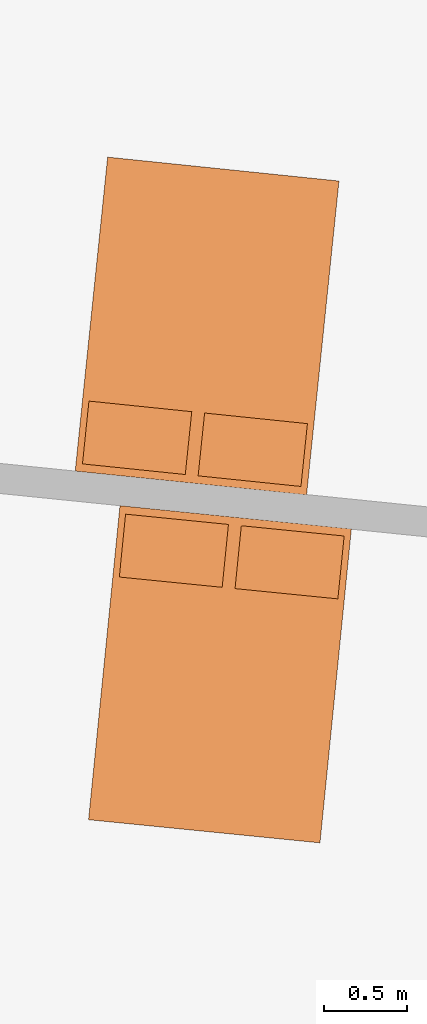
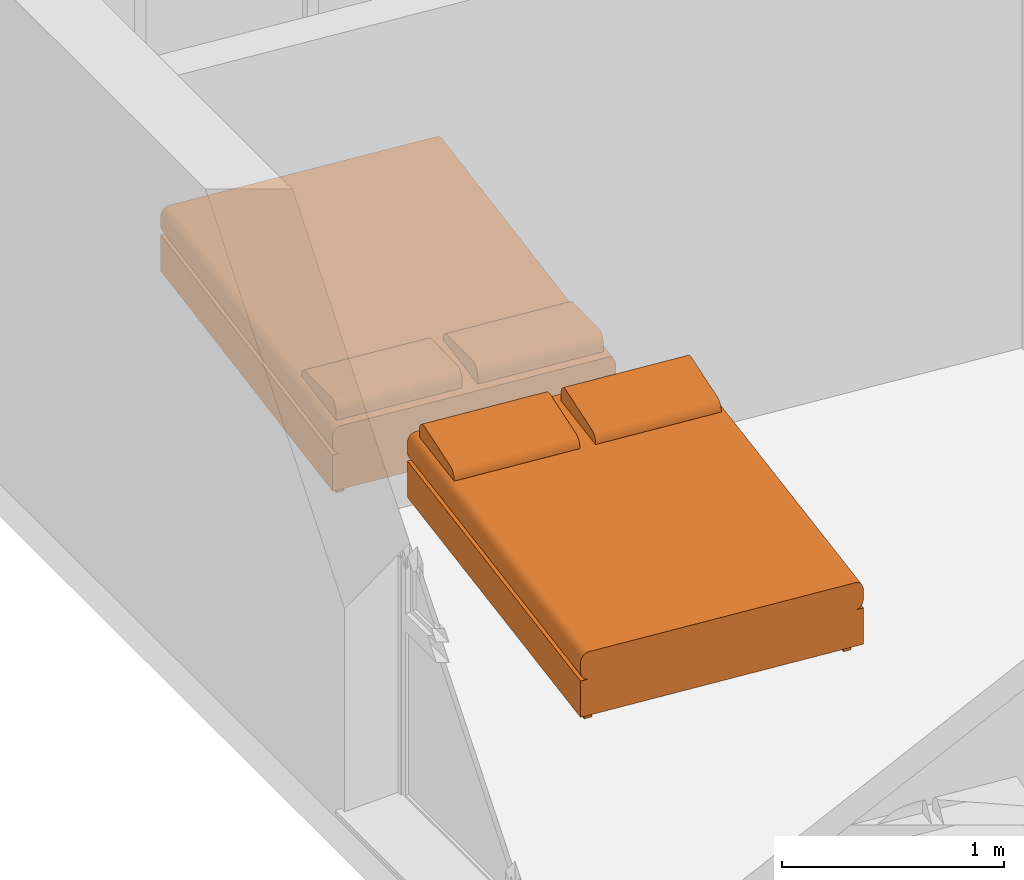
# One storey, part 161 of 171: 2 proxies.
"""IFC2X3 building model written with IfcOpenShell, lengths in millimetres."""

import ifcopenshell
import ifcopenshell.guid

model = None  # the IFC model being written
_history = None  # IfcOwnerHistory: only IFC2X3 demands one
_inside = {}  # id of a spatial element -> (the spatial element, [elements in it])
_under = {}  # id of a project, library or spatial element -> (it, [spatial elements below it])
_declared = {}  # id of a project -> (the project, [libraries it declares])
_typed = {}  # id of a type object -> (the type object, [elements of that type])
_made_of = {}  # id of a material, layer set ... -> (it, [elements and type objects made of it])


def new_model(schema):
    """Start an empty IFC model of exactly this schema.

    Asked for "IFC4X3", IfcOpenShell would pick the latest addendum, in which some entities
    have other attributes; the version numbers below select the first issue.
    IFC2X3 requires an IfcOwnerHistory on every rooted entity: one is made here for all.
    """
    global model, _history
    if schema == "IFC4X3":
        model = ifcopenshell.file(schema_version=(4, 3, 0, 0))
    else:
        model = ifcopenshell.file(schema=schema)
    _inside.clear()
    _under.clear()
    _declared.clear()
    _typed.clear()
    _made_of.clear()
    _history = None
    if model.schema == "IFC2X3":
        org = make("IfcOrganization", Name="unknown")
        user = make(
            "IfcPersonAndOrganization",
            ThePerson=make("IfcPerson", FamilyName="unknown"),
            TheOrganization=org,
        )
        app = make(
            "IfcApplication",
            ApplicationDeveloper=org,
            Version="unknown",
            ApplicationFullName="unknown",
            ApplicationIdentifier="unknown",
        )
        _history = make(
            "IfcOwnerHistory",
            OwningUser=user,
            OwningApplication=app,
            ChangeAction="ADDED",
            CreationDate=0,
        )
    return model


def make(cls, **values):
    """One entity of the class cls with the attributes given. An attribute that is None is left unset."""
    return model.create_entity(
        cls, **{name: value for name, value in values.items() if value is not None}
    )


def entity(cls, *values):
    """Any entity or typed value of the class cls, its attributes in the order of the schema. None: left unset."""
    e = model.create_entity(cls)
    for i, value in enumerate(values):
        if value is not None:
            e[i] = value
    return e


def rooted(cls, **values):
    """An entity with a GlobalId (a new one), such as an element, a storey or a relation."""
    return make(cls, GlobalId=ifcopenshell.guid.new(), OwnerHistory=_history, **values)


def si_unit(unit_type, name, prefix=None):
    """IfcSIUnit, for example si_unit("LENGTHUNIT", "METRE", prefix="MILLI")."""
    return make("IfcSIUnit", UnitType=unit_type, Prefix=prefix, Name=name)


def converted_unit(unit_type, name, factor, base, dimensions=None, offset=None):
    """IfcConversionBasedUnit, such as the inch: factor (a typed value) times the base unit."""
    return make(
        "IfcConversionBasedUnit"
        if offset is None
        else "IfcConversionBasedUnitWithOffset",
        ConversionOffset=offset,
        Dimensions=None
        if dimensions is None
        else entity("IfcDimensionalExponents", *dimensions),
        UnitType=unit_type,
        Name=name,
        ConversionFactor=make(
            "IfcMeasureWithUnit", ValueComponent=factor, UnitComponent=base
        ),
    )


def derived_unit(unit_type, elements):
    """IfcDerivedUnit: a product of units, each with its exponent."""
    return make(
        "IfcDerivedUnit",
        Elements=[
            make("IfcDerivedUnitElement", Unit=unit, Exponent=power)
            for unit, power in elements
        ],
        UnitType=unit_type,
    )


def money_unit(currency):
    """IfcMonetaryUnit."""
    return make("IfcMonetaryUnit", Currency=currency)


def assignment(units):
    """IfcUnitAssignment: the units of a project."""
    return None if units is None else make("IfcUnitAssignment", Units=units)


def point(xyz):
    """IfcCartesianPoint."""
    return None if xyz is None else make("IfcCartesianPoint", Coordinates=xyz)


def direction(xyz):
    """IfcDirection."""
    return None if xyz is None else make("IfcDirection", DirectionRatios=xyz)


def frame(location, z_axis=None, x_axis=None):
    """IfcAxis2Placement3D, a coordinate frame: its origin and axes. An axis left out is left unset."""
    return make(
        "IfcAxis2Placement3D",
        Location=point(location),
        Axis=direction(z_axis),
        RefDirection=direction(x_axis),
    )


def origin_with_axes():
    """The frame at (0, 0, 0) with the z axis (0, 0, 1) and the x axis (1, 0, 0) written out."""
    return frame((0.0, 0.0, 0.0), z_axis=(0.0, 0.0, 1.0), x_axis=(1.0, 0.0, 0.0))


def place(relative_to, where):
    """IfcLocalPlacement: puts the frame where relative to a parent placement (None: the world)."""
    return make(
        "IfcLocalPlacement", PlacementRelTo=relative_to, RelativePlacement=where
    )


def context(
    kind, dimensions, precision=None, world=None, true_north=None, identifier=None
):
    """IfcGeometricRepresentationContext, for example the 3D "Model" context."""
    return make(
        "IfcGeometricRepresentationContext",
        ContextIdentifier=identifier,
        ContextType=kind,
        CoordinateSpaceDimension=dimensions,
        Precision=precision,
        WorldCoordinateSystem=world,
        TrueNorth=true_north,
    )


def subcontext(parent, identifier, kind, view, scale=None):
    """IfcGeometricRepresentationSubContext, for example "Body" below "Model"."""
    return make(
        "IfcGeometricRepresentationSubContext",
        ContextIdentifier=identifier,
        ContextType=kind,
        ParentContext=parent,
        TargetScale=scale,
        TargetView=view,
    )


def project(units=None, contexts=None):
    """IfcProject with its units and contexts."""
    return rooted(
        "IfcProject",
        Name="project",
        RepresentationContexts=contexts,
        UnitsInContext=assignment(units),
    )


def spatial(cls, under=None, at=None, **own):
    """A site, building, storey or space (cls), placed at a placement, below another one or the project."""
    s = rooted(cls, ObjectPlacement=at, **own)
    if under is not None:
        _under.setdefault(under.id(), (under, []))[1].append(s)
    return s


def faces_of(points, faces, orient=None, outer=None):
    """IfcFace entities. A face is a list of loops; a loop is a list of indices into points, from 0.

    orient and outer hold one flag for each loop. By default every Orientation is true, the
    first loop of a face is its IfcFaceOuterBound and the others are IfcFaceBound.
    """
    made = []
    for i, loops in enumerate(faces):
        bounds = []
        for j, loop in enumerate(loops):
            is_outer = j == 0 if outer is None else outer[i][j]
            bounds.append(
                make(
                    "IfcFaceOuterBound" if is_outer else "IfcFaceBound",
                    Bound=make("IfcPolyLoop", Polygon=[points[k] for k in loop]),
                    Orientation=True if orient is None else orient[i][j],
                )
            )
        made.append(make("IfcFace", Bounds=bounds))
    return made


def open_shell(faces, orient=None, outer=None):
    """The faces of one IfcOpenShell. surface_model builds it on its shared points."""
    return ("IfcOpenShell", faces, orient, outer)


def faceted_brep(points, faces, orient=None, outer=None, voids=None):
    """IfcFacetedBrep: a solid bounded by flat faces; with voids (closed shells), ...WithVoids."""
    shared = [point(p) for p in points]
    hull = make("IfcClosedShell", CfsFaces=faces_of(shared, faces, orient, outer))
    if voids is None:
        return make("IfcFacetedBrep", Outer=hull)
    return make(
        "IfcFacetedBrepWithVoids",
        Outer=hull,
        Voids=[
            make(cls, CfsFaces=faces_of(shared, fs, o, b)) for cls, fs, o, b in voids
        ],
    )


def surface_model(cls, points, shells):
    """IfcFaceBasedSurfaceModel or IfcShellBasedSurfaceModel (cls): surfaces that need not close."""
    shared = [point(p) for p in points]
    made = [make(c, CfsFaces=faces_of(shared, fs, o, b)) for c, fs, o, b in shells]
    if cls == "IfcFaceBasedSurfaceModel":
        return make(cls, FbsmFaces=made)
    return make(cls, SbsmBoundary=made)


def shape(context_of_items, identifier, shape_type, items):
    """IfcShapeRepresentation: the items that make up one representation, for example the "Body"."""
    return make(
        "IfcShapeRepresentation",
        ContextOfItems=context_of_items,
        RepresentationIdentifier=identifier,
        RepresentationType=shape_type,
        Items=items,
    )


def source(mapping_origin, context_of_items, identifier, shape_type, items):
    """IfcRepresentationMap: a shape defined once, which mapped items show again and again."""
    return make(
        "IfcRepresentationMap",
        MappingOrigin=mapping_origin,
        MappedRepresentation=shape(context_of_items, identifier, shape_type, items),
    )


def transform(
    local_origin,
    x_axis=None,
    y_axis=None,
    z_axis=None,
    scale=None,
    scale2=None,
    scale3=None,
    uniform=True,
):
    """IfcCartesianTransformationOperator3D, or its non-uniform kind. x_axis, y_axis, z_axis: its Axis1, 2, 3."""
    if uniform:
        return make(
            "IfcCartesianTransformationOperator3D",
            Axis1=direction(x_axis),
            Axis2=direction(y_axis),
            LocalOrigin=point(local_origin),
            Scale=scale,
            Axis3=direction(z_axis),
        )
    return make(
        "IfcCartesianTransformationOperator3DnonUniform",
        Axis1=direction(x_axis),
        Axis2=direction(y_axis),
        LocalOrigin=point(local_origin),
        Scale=scale,
        Axis3=direction(z_axis),
        Scale2=scale2,
        Scale3=scale3,
    )


def mapped(mapping_source, mapping_target):
    """IfcMappedItem: shows the shape of a source again, moved by a transform."""
    return make(
        "IfcMappedItem", MappingSource=mapping_source, MappingTarget=mapping_target
    )


def made_of(thing, what):
    """Note that an element or type object is made of a material, layer set ...; save() writes the relation."""
    if what is not None:
        _made_of.setdefault(what.id(), (what, []))[1].append(thing)
    return thing


def type_object(cls, material=None, **own):
    """A type object (cls), such as IfcWallType, which elements share."""
    return made_of(rooted(cls, **own), material)


def element(
    cls,
    number,
    at=None,
    inside=None,
    cuts=None,
    type_object=None,
    material=None,
    context=None,
    identifier="Body",
    shape_type=None,
    held_by="IfcProductDefinitionShape",
    body=None,
    shapes=None,
    **own,
):
    """One element of the class cls, such as IfcWall. Its Tag is "e" and its number.

    at: its placement. inside: the storey or other place that contains it. cuts: it is an
    opening in that element (IfcRelVoidsElement). A single representation is given by context,
    identifier, shape_type and body (its items); several are given by shapes. held_by: the class
    of the entity that holds the representations. save() writes the other relations.
    """
    e = rooted(cls, Tag="e%d" % number, ObjectPlacement=at, **own)
    if body is not None:
        shapes = [shape(context, identifier, shape_type, body)]
    if shapes is not None:
        e.Representation = make(held_by, Representations=shapes)
    if inside is not None:
        _inside.setdefault(inside.id(), (inside, []))[1].append(e)
    if cuts is not None:
        rooted(
            "IfcRelVoidsElement", RelatingBuildingElement=cuts, RelatedOpeningElement=e
        )
    if type_object is not None:
        _typed.setdefault(type_object.id(), (type_object, []))[1].append(e)
    return made_of(e, material)


def aggregate(whole, parts):
    """IfcRelAggregates: a whole, such as a stair, and the parts it consists of."""
    return rooted("IfcRelAggregates", RelatingObject=whole, RelatedObjects=parts)


def save(model, path):
    """Write the relations noted so far, then the file.

    IfcRelAggregates (storeys below a building ...), IfcRelContainedInSpatialStructure (elements
    in a storey), IfcRelDefinesByType, IfcRelAssociatesMaterial and IfcRelDeclares: one each for
    every whole, place, type object, material and project.
    """
    for whole, parts in _under.values():
        aggregate(whole, parts)
    for where, things in _inside.values():
        rooted(
            "IfcRelContainedInSpatialStructure",
            RelatedElements=things,
            RelatingStructure=where,
        )
    for kind, things in _typed.values():
        rooted("IfcRelDefinesByType", RelatedObjects=things, RelatingType=kind)
    for what, things in _made_of.values():
        rooted("IfcRelAssociatesMaterial", RelatedObjects=things, RelatingMaterial=what)
    for by, libraries in _declared.values():
        rooted("IfcRelDeclares", RelatingContext=by, RelatedDefinitions=libraries)
    model.write(path)


model = new_model("IFC2X3")

# Units and contexts
model_context = context("Model", 3, precision=0.01, world=origin_with_axes(), true_north=direction((0.0, 1.0)))
body_context = subcontext(model_context, "Body", "Model", "MODEL_VIEW")
ifc_project = project(units=[si_unit("LENGTHUNIT", "METRE", prefix="MILLI"), si_unit("AREAUNIT", "SQUARE_METRE"), si_unit("VOLUMEUNIT", "CUBIC_METRE"), converted_unit("PLANEANGLEUNIT", "DEGREE", entity("IfcPlaneAngleMeasure", 0.0174532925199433), si_unit("PLANEANGLEUNIT", "RADIAN"), dimensions=[0, 0, 0, 0, 0, 0, 0]), money_unit("USD"), converted_unit("TIMEUNIT", "Year", entity("IfcTimeMeasure", 31557600.0), si_unit("TIMEUNIT", "SECOND"), dimensions=[0, 0, 1, 0, 0, 0, 0]), si_unit("MASSUNIT", "GRAM", prefix="KILO"), si_unit("THERMODYNAMICTEMPERATUREUNIT", "DEGREE_CELSIUS"), si_unit("LUMINOUSINTENSITYUNIT", "LUMEN"), si_unit("ENERGYUNIT", "JOULE", prefix="MEGA"), derived_unit("THERMALCONDUCTANCEUNIT", [(si_unit("POWERUNIT", "WATT"), 1), (si_unit("LENGTHUNIT", "METRE"), -1), (si_unit("THERMODYNAMICTEMPERATUREUNIT", "KELVIN"), -1)]), derived_unit("SPECIFICHEATCAPACITYUNIT", [(si_unit("ENERGYUNIT", "JOULE"), 1), (si_unit("MASSUNIT", "GRAM", prefix="KILO"), -1), (si_unit("THERMODYNAMICTEMPERATUREUNIT", "KELVIN"), -1)]), derived_unit("MASSDENSITYUNIT", [(si_unit("MASSUNIT", "GRAM", prefix="KILO"), 1), (si_unit("VOLUMEUNIT", "CUBIC_METRE"), -1)])], contexts=[model_context])

# Site, building, storey
site_placement = place(None, origin_with_axes())
site = spatial("IfcSite", under=ifc_project, at=site_placement, Name="Site", CompositionType="ELEMENT")
building_placement = place(site_placement, origin_with_axes())
building = spatial("IfcBuilding", under=site, at=building_placement, Name="Bâtiment", CompositionType="ELEMENT")
storey_placement = place(building_placement, frame((0.0, 0.0, 3000.0), z_axis=(0.0, 0.0, 1.0), x_axis=(1.0, 0.0, 0.0)))
storey = spatial("IfcBuildingStorey", under=building, at=storey_placement, Name="rdc", CompositionType="ELEMENT", Elevation=3000.0)

# Proxies
building_element_proxy_type = type_object("IfcBuildingElementProxyType", PredefinedType="NOTDEFINED")
shared_shape_1 = source(origin_with_axes(), body_context, "Body", "SurfaceModel", [
    faceted_brep([(-622.2222222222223, -95.0, 0.0), (-661.1111111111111, -95.0, 0.0), (-661.1111111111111, -47.5, 0.0), (-622.2222222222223, -47.5, 0.0), (-622.2222222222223, -95.0, 50.0), (-661.1111111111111, -95.0, 50.0), (-661.1111111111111, -47.5, 50.0), (-622.2222222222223, -47.5, 50.0)], [[[0, 1, 2, 3]], [[1, 0, 4, 5]], [[2, 1, 5, 6]], [[3, 2, 6, 7]], [[0, 3, 7, 4]], [[5, 4, 7, 6]]]),
    faceted_brep([(-622.2222222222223, -1852.5, 0.0), (-661.1111111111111, -1852.5, 0.0), (-661.1111111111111, -1805.0, 0.0), (-622.2222222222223, -1805.0, 0.0), (-622.2222222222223, -1852.5, 50.0), (-661.1111111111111, -1852.5, 50.0), (-661.1111111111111, -1805.0, 50.0), (-622.2222222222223, -1805.0, 50.0)], [[[0, 1, 2, 3]], [[1, 0, 4, 5]], [[2, 1, 5, 6]], [[3, 2, 6, 7]], [[0, 3, 7, 4]], [[5, 4, 7, 6]]]),
    faceted_brep([(661.111111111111, -1852.5, 0.0), (622.2222222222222, -1852.5, 0.0), (622.2222222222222, -1805.0, 0.0), (661.111111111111, -1805.0, 0.0), (661.111111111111, -1852.5, 50.0), (622.2222222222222, -1852.5, 50.0), (622.2222222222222, -1805.0, 50.0), (661.111111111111, -1805.0, 50.0)], [[[0, 1, 2, 3]], [[1, 0, 4, 5]], [[2, 1, 5, 6]], [[3, 2, 6, 7]], [[0, 3, 7, 4]], [[5, 4, 7, 6]]]),
    faceted_brep([(661.111111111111, -94.99999999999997, 0.0), (622.2222222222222, -94.99999999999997, 0.0), (622.2222222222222, -47.49999999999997, 0.0), (661.111111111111, -47.49999999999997, 0.0), (661.111111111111, -94.99999999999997, 50.0), (622.2222222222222, -94.99999999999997, 50.0), (622.2222222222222, -47.49999999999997, 50.0), (661.111111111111, -47.49999999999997, 50.0)], [[[0, 1, 2, 3]], [[1, 0, 4, 5]], [[2, 1, 5, 6]], [[3, 2, 6, 7]], [[0, 3, 7, 4]], [[5, 4, 7, 6]]]),
    faceted_brep([(-700.0, 0.0, 50.0), (700.0, 0.0, 50.0), (700.0, -1900.0, 50.00000000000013), (-700.0, -1900.0, 50.00000000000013), (-700.0, 0.0, 250.0), (700.0, 0.0, 250.0), (700.0, -1900.0, 250.0000000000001), (-700.0, -1900.0, 250.0000000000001)], [[[0, 1, 2, 3]], [[0, 4, 5, 1]], [[1, 5, 6, 2]], [[3, 2, 6, 7]], [[4, 0, 3, 7]], [[5, 4, 7, 6]]]),
    surface_model("IfcShellBasedSurfaceModel", [(661.1111111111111, 0.0, 250.0), (667.8640957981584, 0.0, 250.7596123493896), (667.8640957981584, -1900.0, 250.7596123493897), (661.1111111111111, -1900.0, 250.0000000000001), (-661.1111111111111, 0.0, 250.0), (-667.8640957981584, 0.0, 250.7596123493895), (-674.4118944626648, 0.0, 253.0153689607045), (-680.5555555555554, 0.0, 256.698729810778), (-686.1084070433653, 0.0, 261.6977778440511), (-690.9017283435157, 0.0, 267.860619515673), (-694.7898768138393, 0.0, 275.0), (-697.654713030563, 0.0, 282.8989928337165), (-699.4091903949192, 0.0, 291.3175911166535), (-700.0, 0.0, 300.0000000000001), (-700.0000000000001, 0.0, 350.0), (-699.4091903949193, 0.0, 358.6824088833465), (-697.654713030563, 0.0, 367.1010071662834), (-694.7898768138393, 0.0, 375.0), (-690.9017283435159, 0.0, 382.139380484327), (-686.1084070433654, 0.0, 388.3022221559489), (-680.5555555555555, 0.0, 393.301270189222), (-674.4118944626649, 0.0, 396.9846310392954), (-667.8640957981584, 0.0, 399.2403876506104), (-661.1111111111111, 0.0, 400.0), (661.111111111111, 0.0, 400.0000000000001), (667.8640957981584, 0.0, 399.2403876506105), (674.4118944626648, 0.0, 396.9846310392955), (680.5555555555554, 0.0, 393.301270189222), (686.1084070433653, 0.0, 388.3022221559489), (690.9017283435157, 0.0, 382.139380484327), (694.7898768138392, 0.0, 375.0000000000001), (697.654713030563, 0.0, 367.1010071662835), (699.4091903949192, 0.0, 358.6824088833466), (700.0, 0.0, 350.0000000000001), (700.0, 0.0, 300.0000000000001), (699.4091903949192, 0.0, 291.3175911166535), (697.654713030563, 0.0, 282.8989928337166), (694.7898768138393, 0.0, 275.0), (690.9017283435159, 0.0, 267.8606195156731), (686.1084070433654, 0.0, 261.6977778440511), (680.5555555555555, 0.0, 256.698729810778), (674.4118944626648, 0.0, 253.0153689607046), (674.4118944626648, -1900.0, 253.0153689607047), (-661.1111111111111, -1900.0, 250.0000000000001), (680.5555555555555, -1900.0, 256.6987298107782), (686.1084070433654, -1900.0, 261.6977778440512), (690.9017283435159, -1900.0, 267.8606195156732), (694.7898768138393, -1900.0, 275.0000000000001), (697.654713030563, -1900.0, 282.8989928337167), (699.4091903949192, -1900.0, 291.3175911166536), (700.0, -1900.0, 300.0000000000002), (700.0, -1900.0, 350.0000000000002), (699.4091903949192, -1900.0, 358.6824088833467), (697.654713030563, -1900.0, 367.1010071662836), (694.7898768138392, -1900.0, 375.0000000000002), (690.9017283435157, -1900.0, 382.1393804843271), (686.1084070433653, -1900.0, 388.302222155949), (680.5555555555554, -1900.0, 393.3012701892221), (674.4118944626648, -1900.0, 396.9846310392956), (667.8640957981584, -1900.0, 399.2403876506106), (661.111111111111, -1900.0, 400.0000000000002), (-661.1111111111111, -1900.0, 400.0000000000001), (-667.8640957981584, -1900.0, 399.2403876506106), (-674.4118944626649, -1900.0, 396.9846310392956), (-680.5555555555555, -1900.0, 393.3012701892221), (-686.1084070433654, -1900.0, 388.302222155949), (-690.9017283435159, -1900.0, 382.1393804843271), (-694.7898768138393, -1900.0, 375.0000000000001), (-697.654713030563, -1900.0, 367.1010071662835), (-699.4091903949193, -1900.0, 358.6824088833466), (-700.0000000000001, -1900.0, 350.0000000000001), (-700.0, -1900.0, 300.0000000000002), (-699.4091903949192, -1900.0, 291.3175911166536), (-697.654713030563, -1900.0, 282.8989928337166), (-694.7898768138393, -1900.0, 275.0000000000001), (-690.9017283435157, -1900.0, 267.8606195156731), (-686.1084070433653, -1900.0, 261.6977778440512), (-680.5555555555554, -1900.0, 256.6987298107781), (-674.4118944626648, -1900.0, 253.0153689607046), (-667.8640957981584, -1900.0, 250.7596123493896)], [open_shell([[[0, 1, 2, 3]], [[4, 5, 6, 7, 8, 9, 10, 11, 12, 13, 14, 15, 16, 17, 18, 19, 20, 21, 22, 23, 24, 25, 26, 27, 28, 29, 30, 31, 32, 33, 34, 35, 36, 37, 38, 39, 40, 41, 1, 0]], [[1, 41, 42, 2]], [[43, 3, 2, 42, 44, 45, 46, 47, 48, 49, 50, 51, 52, 53, 54, 55, 56, 57, 58, 59, 60, 61, 62, 63, 64, 65, 66, 67, 68, 69, 70, 71, 72, 73, 74, 75, 76, 77, 78, 79]], [[5, 4, 43, 79]], [[6, 5, 79, 78]], [[7, 6, 78, 77]], [[8, 7, 77, 76]], [[9, 8, 76, 75]], [[10, 9, 75, 74]], [[11, 10, 74, 73]], [[12, 11, 73, 72]], [[13, 12, 72, 71]], [[14, 13, 71, 70]], [[15, 14, 70, 69]], [[16, 15, 69, 68]], [[17, 16, 68, 67]], [[18, 17, 67, 66]], [[19, 18, 66, 65]], [[20, 19, 65, 64]], [[21, 20, 64, 63]], [[22, 21, 63, 62]], [[23, 22, 62, 61]], [[24, 23, 61, 60]], [[25, 24, 60, 59]], [[26, 25, 59, 58]], [[27, 26, 58, 57]], [[28, 27, 57, 56]], [[29, 28, 56, 55]], [[30, 29, 55, 54]], [[31, 30, 54, 53]], [[32, 31, 53, 52]], [[33, 32, 52, 51]], [[34, 33, 51, 50]], [[35, 34, 50, 49]], [[36, 35, 49, 48]], [[37, 36, 48, 47]], [[38, 37, 47, 46]], [[39, 38, 46, 45]], [[40, 39, 45, 44]], [[41, 40, 44, 42]]])]),
    faceted_brep([(38.88888888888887, -47.49999999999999, 400.0), (38.88888888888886, -47.49999999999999, 443.4), (661.1111111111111, -47.50000000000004, 443.4000000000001), (661.1111111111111, -47.50000000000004, 400.0000000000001), (38.88888888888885, -427.5, 400.0), (38.88888888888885, -427.6960812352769, 408.695442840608), (38.88888888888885, -426.4675711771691, 417.2966661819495), (38.88888888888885, -423.8511300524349, 425.5469991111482), (38.88888888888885, -419.9248356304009, 433.2002417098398), (38.88888888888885, -414.8058532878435, 440.0280119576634), (38.88888888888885, -408.6469396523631, 445.826560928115), (38.88888888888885, -401.6318841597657, 450.4228529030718), (38.88888888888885, -393.9700245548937, 453.6797289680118), (38.88888888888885, -385.89, 455.5), (38.88888888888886, -100.89, 493.0000000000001), (38.88888888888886, -92.85488048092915, 493.3370808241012), (38.88888888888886, -84.88093291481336, 492.2422169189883), (38.88888888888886, -77.19681007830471, 489.7468034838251), (38.88888888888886, -70.02285403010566, 485.922396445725), (38.88888888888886, -63.56477780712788, 480.878660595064), (38.88888888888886, -58.00776660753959, 474.7602249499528), (38.88888888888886, -53.51116760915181, 467.7425355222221), (38.88888888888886, -50.20392069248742, 460.0268244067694), (38.88888888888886, -48.18086109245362, 451.834339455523), (661.1111111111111, -48.18086109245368, 451.8343394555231), (661.1111111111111, -50.20392069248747, 460.0268244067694), (661.1111111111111, -53.51116760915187, 467.7425355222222), (661.1111111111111, -58.00776660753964, 474.7602249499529), (661.1111111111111, -63.56477780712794, 480.878660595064), (661.1111111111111, -70.02285403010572, 485.922396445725), (661.1111111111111, -77.19681007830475, 489.7468034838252), (661.1111111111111, -84.88093291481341, 492.2422169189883), (661.1111111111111, -92.85488048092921, 493.3370808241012), (661.1111111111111, -100.8900000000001, 493.0000000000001), (661.1111111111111, -385.89, 455.5000000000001), (661.1111111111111, -393.9700245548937, 453.6797289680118), (661.1111111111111, -401.6318841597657, 450.4228529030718), (661.1111111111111, -408.6469396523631, 445.826560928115), (661.1111111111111, -414.8058532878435, 440.0280119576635), (661.1111111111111, -419.924835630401, 433.2002417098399), (661.1111111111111, -423.8511300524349, 425.5469991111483), (661.1111111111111, -426.4675711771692, 417.2966661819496), (661.1111111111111, -427.6960812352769, 408.6954428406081), (661.1111111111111, -427.5, 400.0000000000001)], [[[0, 1, 2, 3]], [[0, 4, 5, 6, 7, 8, 9, 10, 11, 12, 13, 14, 15, 16, 17, 18, 19, 20, 21, 22, 23, 1]], [[1, 23, 24, 2]], [[3, 2, 24, 25, 26, 27, 28, 29, 30, 31, 32, 33, 34, 35, 36, 37, 38, 39, 40, 41, 42, 43]], [[4, 0, 3, 43]], [[5, 4, 43, 42]], [[6, 5, 42, 41]], [[7, 6, 41, 40]], [[8, 7, 40, 39]], [[9, 8, 39, 38]], [[10, 9, 38, 37]], [[11, 10, 37, 36]], [[12, 11, 36, 35]], [[13, 12, 35, 34]], [[14, 13, 34, 33]], [[15, 14, 33, 32]], [[16, 15, 32, 31]], [[17, 16, 31, 30]], [[18, 17, 30, 29]], [[19, 18, 29, 28]], [[20, 19, 28, 27]], [[21, 20, 27, 26]], [[22, 21, 26, 25]], [[23, 22, 25, 24]]]),
    faceted_brep([(-661.1111111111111, -47.49999999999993, 399.9999999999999), (-661.1111111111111, -47.49999999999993, 443.4), (-38.88888888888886, -47.49999999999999, 443.4), (-38.88888888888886, -47.49999999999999, 400.0), (-661.1111111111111, -427.4999999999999, 399.9999999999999), (-661.1111111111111, -427.6960812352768, 408.6954428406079), (-661.1111111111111, -426.4675711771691, 417.2966661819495), (-661.1111111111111, -423.8511300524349, 425.5469991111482), (-661.1111111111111, -419.9248356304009, 433.2002417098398), (-661.1111111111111, -414.8058532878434, 440.0280119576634), (-661.1111111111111, -408.646939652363, 445.8265609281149), (-661.1111111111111, -401.6318841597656, 450.4228529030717), (-661.1111111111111, -393.9700245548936, 453.6797289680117), (-661.1111111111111, -385.8899999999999, 455.4999999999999), (-661.1111111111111, -100.89, 493.0), (-661.1111111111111, -92.8548804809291, 493.3370808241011), (-661.1111111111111, -84.8809329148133, 492.2422169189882), (-661.1111111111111, -77.19681007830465, 489.7468034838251), (-661.1111111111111, -70.0228540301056, 485.9223964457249), (-661.1111111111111, -63.56477780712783, 480.8786605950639), (-661.1111111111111, -58.00776660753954, 474.7602249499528), (-661.1111111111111, -53.51116760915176, 467.7425355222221), (-661.1111111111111, -50.20392069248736, 460.0268244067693), (-661.1111111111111, -48.18086109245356, 451.834339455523), (-38.88888888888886, -48.18086109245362, 451.834339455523), (-38.88888888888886, -50.20392069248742, 460.0268244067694), (-38.88888888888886, -53.51116760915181, 467.7425355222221), (-38.88888888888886, -58.00776660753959, 474.7602249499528), (-38.88888888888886, -63.56477780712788, 480.878660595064), (-38.88888888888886, -70.02285403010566, 485.922396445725), (-38.88888888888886, -77.19681007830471, 489.7468034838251), (-38.88888888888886, -84.88093291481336, 492.2422169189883), (-38.88888888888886, -92.85488048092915, 493.3370808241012), (-38.88888888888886, -100.89, 493.0000000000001), (-38.88888888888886, -385.8899999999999, 455.5), (-38.88888888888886, -393.9700245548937, 453.6797289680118), (-38.88888888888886, -401.6318841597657, 450.4228529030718), (-38.88888888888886, -408.6469396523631, 445.826560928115), (-38.88888888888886, -414.8058532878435, 440.0280119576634), (-38.88888888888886, -419.9248356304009, 433.2002417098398), (-38.88888888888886, -423.8511300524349, 425.5469991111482), (-38.88888888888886, -426.4675711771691, 417.2966661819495), (-38.88888888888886, -427.6960812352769, 408.695442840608), (-38.88888888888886, -427.4999999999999, 400.0)], [[[0, 1, 2, 3]], [[0, 4, 5, 6, 7, 8, 9, 10, 11, 12, 13, 14, 15, 16, 17, 18, 19, 20, 21, 22, 23, 1]], [[1, 23, 24, 2]], [[3, 2, 24, 25, 26, 27, 28, 29, 30, 31, 32, 33, 34, 35, 36, 37, 38, 39, 40, 41, 42, 43]], [[4, 0, 3, 43]], [[5, 4, 43, 42]], [[6, 5, 42, 41]], [[7, 6, 41, 40]], [[8, 7, 40, 39]], [[9, 8, 39, 38]], [[10, 9, 38, 37]], [[11, 10, 37, 36]], [[12, 11, 36, 35]], [[13, 12, 35, 34]], [[14, 13, 34, 33]], [[15, 14, 33, 32]], [[16, 15, 32, 31]], [[17, 16, 31, 30]], [[18, 17, 30, 29]], [[19, 18, 29, 28]], [[20, 19, 28, 27]], [[21, 20, 27, 26]], [[22, 21, 26, 25]], [[23, 22, 25, 24]]]),
])
proxy_1_placement = place(storey_placement, frame((2218565.66618662, -610820.4848225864, 0.0), z_axis=(0.0, 0.0, 1.0), x_axis=(-0.994709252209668, 0.1027302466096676, 0.0)))
element("IfcBuildingElementProxy", 1, at=proxy_1_placement, inside=storey, type_object=building_element_proxy_type, Name="Obj.-003", context=body_context, shape_type="MappedRepresentation", body=[
    mapped(shared_shape_1, transform((0.0, 0.0, 0.0))),
])
shared_shape_2 = source(origin_with_axes(), body_context, "Body", "SurfaceModel", [
    faceted_brep([(622.2222222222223, -95.0, 0.0), (622.2222222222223, -47.5, 0.0), (661.1111111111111, -47.5, 0.0), (661.1111111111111, -95.0, 0.0), (622.2222222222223, -95.0, 50.0), (622.2222222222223, -47.5, 50.0), (661.1111111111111, -47.5, 50.0), (661.1111111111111, -95.0, 50.0)], [[[0, 1, 2, 3]], [[0, 4, 5, 1]], [[1, 5, 6, 2]], [[2, 6, 7, 3]], [[3, 7, 4, 0]], [[7, 6, 5, 4]]]),
    faceted_brep([(622.2222222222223, -1852.5, 0.0), (622.2222222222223, -1805.0, 0.0), (661.1111111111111, -1805.0, 0.0), (661.1111111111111, -1852.5, 0.0), (622.2222222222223, -1852.5, 50.0), (622.2222222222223, -1805.0, 50.0), (661.1111111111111, -1805.0, 50.0), (661.1111111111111, -1852.5, 50.0)], [[[0, 1, 2, 3]], [[0, 4, 5, 1]], [[1, 5, 6, 2]], [[2, 6, 7, 3]], [[3, 7, 4, 0]], [[7, 6, 5, 4]]]),
    faceted_brep([(-661.111111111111, -1852.5, 0.0), (-661.111111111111, -1805.0, 0.0), (-622.2222222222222, -1805.0, 0.0), (-622.2222222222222, -1852.5, 0.0), (-661.111111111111, -1852.5, 50.0), (-661.111111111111, -1805.0, 50.0), (-622.2222222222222, -1805.0, 50.0), (-622.2222222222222, -1852.5, 50.0)], [[[0, 1, 2, 3]], [[0, 4, 5, 1]], [[1, 5, 6, 2]], [[2, 6, 7, 3]], [[3, 7, 4, 0]], [[7, 6, 5, 4]]]),
    faceted_brep([(-661.111111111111, -94.99999999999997, 0.0), (-661.111111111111, -47.49999999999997, 0.0), (-622.2222222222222, -47.49999999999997, 0.0), (-622.2222222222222, -94.99999999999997, 0.0), (-661.111111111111, -94.99999999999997, 50.0), (-661.111111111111, -47.49999999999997, 50.0), (-622.2222222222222, -47.49999999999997, 50.0), (-622.2222222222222, -94.99999999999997, 50.0)], [[[0, 1, 2, 3]], [[0, 4, 5, 1]], [[1, 5, 6, 2]], [[2, 6, 7, 3]], [[3, 7, 4, 0]], [[7, 6, 5, 4]]]),
    faceted_brep([(700.0, 0.0, 50.0), (700.0, -1900.0, 50.00000000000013), (-700.0, -1900.0, 50.00000000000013), (-700.0, 0.0, 50.0), (700.0, 0.0, 250.0), (700.0, -1900.0, 250.0000000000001), (-700.0, -1900.0, 250.0000000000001), (-700.0, 0.0, 250.0)], [[[0, 1, 2, 3]], [[4, 5, 1, 0]], [[1, 5, 6, 2]], [[3, 2, 6, 7]], [[0, 3, 7, 4]], [[7, 6, 5, 4]]]),
    surface_model("IfcShellBasedSurfaceModel", [(-661.1111111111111, 0.0, 250.0), (-661.1111111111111, -1900.0, 250.0000000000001), (-667.8640957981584, -1900.0, 250.7596123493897), (-667.8640957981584, 0.0, 250.7596123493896), (661.1111111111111, -1900.0, 250.0000000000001), (667.8640957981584, -1900.0, 250.7596123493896), (674.4118944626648, -1900.0, 253.0153689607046), (680.5555555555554, -1900.0, 256.6987298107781), (686.1084070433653, -1900.0, 261.6977778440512), (690.9017283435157, -1900.0, 267.8606195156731), (694.7898768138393, -1900.0, 275.0000000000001), (697.654713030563, -1900.0, 282.8989928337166), (699.4091903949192, -1900.0, 291.3175911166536), (700.0, -1900.0, 300.0000000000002), (700.0000000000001, -1900.0, 350.0000000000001), (699.4091903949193, -1900.0, 358.6824088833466), (697.654713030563, -1900.0, 367.1010071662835), (694.7898768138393, -1900.0, 375.0000000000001), (690.9017283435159, -1900.0, 382.1393804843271), (686.1084070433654, -1900.0, 388.302222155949), (680.5555555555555, -1900.0, 393.3012701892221), (674.4118944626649, -1900.0, 396.9846310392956), (667.8640957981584, -1900.0, 399.2403876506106), (661.1111111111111, -1900.0, 400.0000000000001), (-661.111111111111, -1900.0, 400.0000000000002), (-667.8640957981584, -1900.0, 399.2403876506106), (-674.4118944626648, -1900.0, 396.9846310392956), (-680.5555555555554, -1900.0, 393.3012701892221), (-686.1084070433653, -1900.0, 388.302222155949), (-690.9017283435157, -1900.0, 382.1393804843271), (-694.7898768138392, -1900.0, 375.0000000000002), (-697.654713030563, -1900.0, 367.1010071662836), (-699.4091903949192, -1900.0, 358.6824088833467), (-700.0, -1900.0, 350.0000000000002), (-700.0, -1900.0, 300.0000000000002), (-699.4091903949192, -1900.0, 291.3175911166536), (-697.654713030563, -1900.0, 282.8989928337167), (-694.7898768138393, -1900.0, 275.0000000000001), (-690.9017283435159, -1900.0, 267.8606195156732), (-686.1084070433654, -1900.0, 261.6977778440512), (-680.5555555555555, -1900.0, 256.6987298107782), (-674.4118944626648, -1900.0, 253.0153689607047), (-674.4118944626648, 0.0, 253.0153689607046), (661.1111111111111, 0.0, 250.0), (-680.5555555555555, 0.0, 256.698729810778), (-686.1084070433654, 0.0, 261.6977778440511), (-690.9017283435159, 0.0, 267.8606195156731), (-694.7898768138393, 0.0, 275.0), (-697.654713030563, 0.0, 282.8989928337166), (-699.4091903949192, 0.0, 291.3175911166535), (-700.0, 0.0, 300.0000000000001), (-700.0, 0.0, 350.0000000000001), (-699.4091903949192, 0.0, 358.6824088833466), (-697.654713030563, 0.0, 367.1010071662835), (-694.7898768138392, 0.0, 375.0000000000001), (-690.9017283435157, 0.0, 382.139380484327), (-686.1084070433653, 0.0, 388.3022221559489), (-680.5555555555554, 0.0, 393.301270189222), (-674.4118944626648, 0.0, 396.9846310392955), (-667.8640957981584, 0.0, 399.2403876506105), (-661.111111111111, 0.0, 400.0000000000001), (661.1111111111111, 0.0, 400.0), (667.8640957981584, 0.0, 399.2403876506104), (674.4118944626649, 0.0, 396.9846310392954), (680.5555555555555, 0.0, 393.301270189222), (686.1084070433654, 0.0, 388.3022221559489), (690.9017283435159, 0.0, 382.139380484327), (694.7898768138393, 0.0, 375.0), (697.654713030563, 0.0, 367.1010071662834), (699.4091903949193, 0.0, 358.6824088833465), (700.0000000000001, 0.0, 350.0), (700.0, 0.0, 300.0000000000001), (699.4091903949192, 0.0, 291.3175911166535), (697.654713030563, 0.0, 282.8989928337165), (694.7898768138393, 0.0, 275.0), (690.9017283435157, 0.0, 267.860619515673), (686.1084070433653, 0.0, 261.6977778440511), (680.5555555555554, 0.0, 256.698729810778), (674.4118944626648, 0.0, 253.0153689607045), (667.8640957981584, 0.0, 250.7596123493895)], [open_shell([[[0, 1, 2, 3]], [[4, 5, 6, 7, 8, 9, 10, 11, 12, 13, 14, 15, 16, 17, 18, 19, 20, 21, 22, 23, 24, 25, 26, 27, 28, 29, 30, 31, 32, 33, 34, 35, 36, 37, 38, 39, 40, 41, 2, 1]], [[3, 2, 41, 42]], [[43, 0, 3, 42, 44, 45, 46, 47, 48, 49, 50, 51, 52, 53, 54, 55, 56, 57, 58, 59, 60, 61, 62, 63, 64, 65, 66, 67, 68, 69, 70, 71, 72, 73, 74, 75, 76, 77, 78, 79]], [[79, 5, 4, 43]], [[78, 6, 5, 79]], [[77, 7, 6, 78]], [[76, 8, 7, 77]], [[75, 9, 8, 76]], [[74, 10, 9, 75]], [[73, 11, 10, 74]], [[72, 12, 11, 73]], [[71, 13, 12, 72]], [[70, 14, 13, 71]], [[69, 15, 14, 70]], [[68, 16, 15, 69]], [[67, 17, 16, 68]], [[66, 18, 17, 67]], [[65, 19, 18, 66]], [[64, 20, 19, 65]], [[63, 21, 20, 64]], [[62, 22, 21, 63]], [[61, 23, 22, 62]], [[60, 24, 23, 61]], [[59, 25, 24, 60]], [[58, 26, 25, 59]], [[57, 27, 26, 58]], [[56, 28, 27, 57]], [[55, 29, 28, 56]], [[54, 30, 29, 55]], [[53, 31, 30, 54]], [[52, 32, 31, 53]], [[51, 33, 32, 52]], [[50, 34, 33, 51]], [[49, 35, 34, 50]], [[48, 36, 35, 49]], [[47, 37, 36, 48]], [[46, 38, 37, 47]], [[45, 39, 38, 46]], [[44, 40, 39, 45]], [[42, 41, 40, 44]]])]),
    faceted_brep([(-38.88888888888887, -47.49999999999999, 400.0), (-661.1111111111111, -47.50000000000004, 400.0000000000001), (-661.1111111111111, -47.50000000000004, 443.4000000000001), (-38.88888888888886, -47.49999999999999, 443.4), (-38.88888888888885, -427.5, 400.0), (-661.1111111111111, -427.5, 400.0000000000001), (-661.1111111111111, -427.6960812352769, 408.6954428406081), (-661.1111111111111, -426.4675711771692, 417.2966661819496), (-661.1111111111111, -423.8511300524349, 425.5469991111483), (-661.1111111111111, -419.924835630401, 433.2002417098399), (-661.1111111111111, -414.8058532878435, 440.0280119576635), (-661.1111111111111, -408.6469396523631, 445.826560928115), (-661.1111111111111, -401.6318841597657, 450.4228529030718), (-661.1111111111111, -393.9700245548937, 453.6797289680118), (-661.1111111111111, -385.89, 455.5000000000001), (-661.1111111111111, -100.8900000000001, 493.0000000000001), (-661.1111111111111, -92.85488048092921, 493.3370808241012), (-661.1111111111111, -84.88093291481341, 492.2422169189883), (-661.1111111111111, -77.19681007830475, 489.7468034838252), (-661.1111111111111, -70.02285403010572, 485.922396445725), (-661.1111111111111, -63.56477780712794, 480.878660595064), (-661.1111111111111, -58.00776660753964, 474.7602249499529), (-661.1111111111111, -53.51116760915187, 467.7425355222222), (-661.1111111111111, -50.20392069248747, 460.0268244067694), (-661.1111111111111, -48.18086109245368, 451.8343394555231), (-38.88888888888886, -48.18086109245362, 451.834339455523), (-38.88888888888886, -50.20392069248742, 460.0268244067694), (-38.88888888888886, -53.51116760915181, 467.7425355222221), (-38.88888888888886, -58.00776660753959, 474.7602249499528), (-38.88888888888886, -63.56477780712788, 480.878660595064), (-38.88888888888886, -70.02285403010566, 485.922396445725), (-38.88888888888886, -77.19681007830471, 489.7468034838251), (-38.88888888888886, -84.88093291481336, 492.2422169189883), (-38.88888888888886, -92.85488048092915, 493.3370808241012), (-38.88888888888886, -100.89, 493.0000000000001), (-38.88888888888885, -385.89, 455.5), (-38.88888888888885, -393.9700245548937, 453.6797289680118), (-38.88888888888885, -401.6318841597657, 450.4228529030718), (-38.88888888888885, -408.6469396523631, 445.826560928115), (-38.88888888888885, -414.8058532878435, 440.0280119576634), (-38.88888888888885, -419.9248356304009, 433.2002417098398), (-38.88888888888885, -423.8511300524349, 425.5469991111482), (-38.88888888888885, -426.4675711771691, 417.2966661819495), (-38.88888888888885, -427.6960812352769, 408.695442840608)], [[[0, 1, 2, 3]], [[4, 5, 1, 0]], [[1, 5, 6, 7, 8, 9, 10, 11, 12, 13, 14, 15, 16, 17, 18, 19, 20, 21, 22, 23, 24, 2]], [[3, 2, 24, 25]], [[0, 3, 25, 26, 27, 28, 29, 30, 31, 32, 33, 34, 35, 36, 37, 38, 39, 40, 41, 42, 43, 4]], [[43, 6, 5, 4]], [[42, 7, 6, 43]], [[41, 8, 7, 42]], [[40, 9, 8, 41]], [[39, 10, 9, 40]], [[38, 11, 10, 39]], [[37, 12, 11, 38]], [[36, 13, 12, 37]], [[35, 14, 13, 36]], [[34, 15, 14, 35]], [[33, 16, 15, 34]], [[32, 17, 16, 33]], [[31, 18, 17, 32]], [[30, 19, 18, 31]], [[29, 20, 19, 30]], [[28, 21, 20, 29]], [[27, 22, 21, 28]], [[26, 23, 22, 27]], [[25, 24, 23, 26]]]),
    faceted_brep([(661.1111111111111, -47.49999999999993, 399.9999999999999), (38.88888888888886, -47.49999999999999, 400.0), (38.88888888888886, -47.49999999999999, 443.4), (661.1111111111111, -47.49999999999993, 443.4), (661.1111111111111, -427.4999999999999, 399.9999999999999), (38.88888888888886, -427.4999999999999, 400.0), (38.88888888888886, -427.6960812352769, 408.695442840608), (38.88888888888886, -426.4675711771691, 417.2966661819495), (38.88888888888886, -423.8511300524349, 425.5469991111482), (38.88888888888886, -419.9248356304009, 433.2002417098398), (38.88888888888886, -414.8058532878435, 440.0280119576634), (38.88888888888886, -408.6469396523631, 445.826560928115), (38.88888888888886, -401.6318841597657, 450.4228529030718), (38.88888888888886, -393.9700245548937, 453.6797289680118), (38.88888888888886, -385.8899999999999, 455.5), (38.88888888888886, -100.89, 493.0000000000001), (38.88888888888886, -92.85488048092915, 493.3370808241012), (38.88888888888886, -84.88093291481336, 492.2422169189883), (38.88888888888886, -77.19681007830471, 489.7468034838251), (38.88888888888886, -70.02285403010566, 485.922396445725), (38.88888888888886, -63.56477780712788, 480.878660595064), (38.88888888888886, -58.00776660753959, 474.7602249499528), (38.88888888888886, -53.51116760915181, 467.7425355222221), (38.88888888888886, -50.20392069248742, 460.0268244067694), (38.88888888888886, -48.18086109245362, 451.834339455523), (661.1111111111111, -48.18086109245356, 451.834339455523), (661.1111111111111, -50.20392069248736, 460.0268244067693), (661.1111111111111, -53.51116760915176, 467.7425355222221), (661.1111111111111, -58.00776660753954, 474.7602249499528), (661.1111111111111, -63.56477780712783, 480.8786605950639), (661.1111111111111, -70.0228540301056, 485.9223964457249), (661.1111111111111, -77.19681007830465, 489.7468034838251), (661.1111111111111, -84.8809329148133, 492.2422169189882), (661.1111111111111, -92.8548804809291, 493.3370808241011), (661.1111111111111, -100.89, 493.0), (661.1111111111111, -385.8899999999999, 455.4999999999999), (661.1111111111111, -393.9700245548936, 453.6797289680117), (661.1111111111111, -401.6318841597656, 450.4228529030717), (661.1111111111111, -408.646939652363, 445.8265609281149), (661.1111111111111, -414.8058532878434, 440.0280119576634), (661.1111111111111, -419.9248356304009, 433.2002417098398), (661.1111111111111, -423.8511300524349, 425.5469991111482), (661.1111111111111, -426.4675711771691, 417.2966661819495), (661.1111111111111, -427.6960812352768, 408.6954428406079)], [[[0, 1, 2, 3]], [[4, 5, 1, 0]], [[1, 5, 6, 7, 8, 9, 10, 11, 12, 13, 14, 15, 16, 17, 18, 19, 20, 21, 22, 23, 24, 2]], [[3, 2, 24, 25]], [[0, 3, 25, 26, 27, 28, 29, 30, 31, 32, 33, 34, 35, 36, 37, 38, 39, 40, 41, 42, 43, 4]], [[43, 6, 5, 4]], [[42, 7, 6, 43]], [[41, 8, 7, 42]], [[40, 9, 8, 41]], [[39, 10, 9, 40]], [[38, 11, 10, 39]], [[37, 12, 11, 38]], [[36, 13, 12, 37]], [[35, 14, 13, 36]], [[34, 15, 14, 35]], [[33, 16, 15, 34]], [[32, 17, 16, 33]], [[31, 18, 17, 32]], [[30, 19, 18, 31]], [[29, 20, 19, 30]], [[28, 21, 20, 29]], [[27, 22, 21, 28]], [[26, 23, 22, 27]], [[25, 24, 23, 26]]]),
])
proxy_2_placement = place(storey_placement, frame((2218835.200255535, -611026.5172237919, 0.0), z_axis=(0.0, 0.0, 1.0), x_axis=(0.9950436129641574, -0.09943947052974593, 0.0)))
element("IfcBuildingElementProxy", 2, at=proxy_2_placement, inside=storey, type_object=building_element_proxy_type, Name="Obj.-003", context=body_context, shape_type="MappedRepresentation", body=[
    mapped(shared_shape_2, transform((0.0, 0.0, 0.0))),
])

save(model, "model.ifc")
